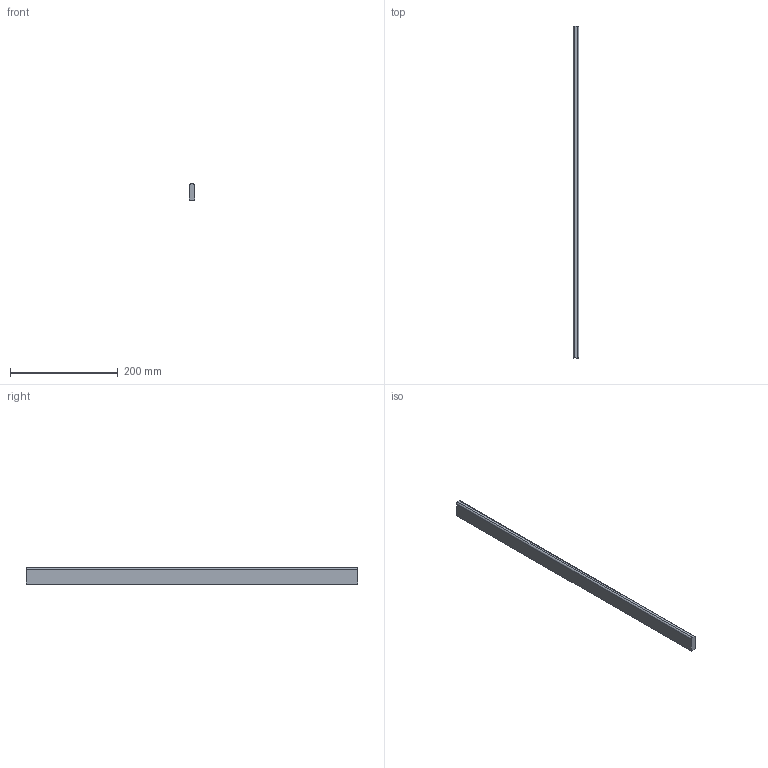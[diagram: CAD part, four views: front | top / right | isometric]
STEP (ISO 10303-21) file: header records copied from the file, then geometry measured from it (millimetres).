
FILE_DESCRIPTION (( 'STEP AP214' ), '1' );
FILE_NAME ('_Seitenreling_SP60701200_RL617,1.step', '2010-09-06T14:52:00', ( 'grass' ), ( '' ), 'SwSTEP 2.0', 'SolidWorks 2010', '' );
FILE_SCHEMA (( 'AUTOMOTIVE_DESIGN' ));
Length unit declared in the file: millimetre
Products named in the file (1): _Seitenreling_SP60701200_RL617,1
Bounding box: 10.5 x 617.1 x 30 mm (x, y, z)
Volume: 192002.7 mm3; surface area: 49018.2 mm2
Topology: 1 solids, 1 shells, 8 faces, 18 edges, 12 vertices
Faces by surface type: plane 6, cylinder 2
Entity records: 260 total; most frequent: DIRECTION 40, CARTESIAN_POINT 39, ORIENTED_EDGE 36, EDGE_CURVE 18, LINE 14, VECTOR 14, AXIS2_PLACEMENT_3D 13, VERTEX_POINT 12
